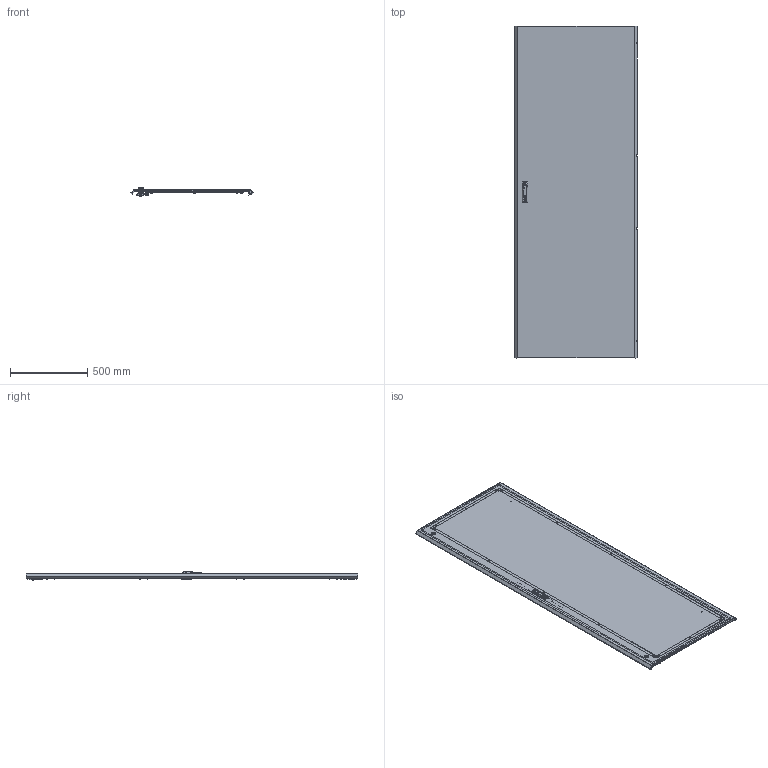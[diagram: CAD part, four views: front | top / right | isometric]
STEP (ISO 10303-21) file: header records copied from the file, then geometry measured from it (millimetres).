
FILE_DESCRIPTION (( 'STEP AP203' ), '1' );
FILE_NAME ('MA1.200.080622.30.00 AleSta-D22M800 Äâåðü ñïëîøíàÿ äëÿ øêàôîâ ALESTA ÂõØ 2200õ800.STEP', '2025-02-19T14:15:23', ( '' ), ( '' ), 'SwSTEP 2.0', 'SolidWorks 2021', '' );
FILE_SCHEMA (( 'CONFIG_CONTROL_DESIGN' ));
Length unit declared in the file: millimetre
Products named in the file (23): Ãàéêà ñàìîêîíòðÿùàÿñÿ ñ íåéëîíîâîé âñòàâêîé Ì6 DIN 985, êëàññ ïðî÷íîñòè 8, îöèíêîâàííàÿ ñòàëü_Œ5; MA1.200.060620.31.02 Ðåéêà íà äâåðü âåðòèêàëüíàÿ Â = 2000_‚ = 2200; Øïèëüêà Ì6õ12_˜¯¨«ìª  Œ6å20; äåðæàòåëü_êðóãëîé_òÿãèRG002-RG1010-2-i-RG1010-3-.stp; Øïèëüêà Ì6õ12_˜¯¨«ìª  Œ6å16; 諘蜱齁罻 022 瀁錒瀔隮; MA1.200.060620.31.01 Ïîëîòíî äâåðè ñïëîøíîé 2000õ600_2200å800; MA1.200.060620.31.00 Äâåðü ñïëîøíàÿ äëÿ øêàôîâ ALESTA ÂõØ 2000õ600_2200å800; Óïëîòíèòåëü ïàíåëè íèæíåé_ ‚=2200; Íàâåñêà íà êîðïóñ ïîä êëåïêó; Âèíò ñàìîíàðåçàþùèé ñ ïîòàéíîé ãîëîâêîé Ì5x16 DIN 7500 M TORX, êëàññ ïðî÷íîñòè 8.8, îöèíêîâàííàÿ ñòàëü_Œ5å16; Îñü ïåòëè 4õ52_‚¨­â A.M4x0,5x40 ƒŽ‘’ 11644-75; êðåïëåíèå_êðóãëîé_òÿãè_RG1020-1.stp; òÿãà_lg001-2.STEP_‚=2200; MA1.200.060620.31.04 需沐朦_惃％; MA1.200.080622.30.00 AleSta-D22M800 Äâåðü ñïëîøíàÿ äëÿ øêàôîâ ALESTA ÂõØ 2200õ800; MA1.200.060620.31.06 赶鎀鍧_100 洵; MA1.200.060620.31.05 Óãëîâîé óïîð äâåðíîé òÿãè; MA1.200.060620.31.03 Ðåéêà íà äâåðü ãîðèçîíòàëüíàÿ Ø = 600_˜=800; Ãàéêà ñàìîêîíòðÿùàÿñÿ ñ íåéëîíîâîé âñòàâêîé Ì6 DIN 985, êëàññ ïðî÷íîñòè 8, îöèíêîâàííàÿ ñòàëü_Œ6; MS463-2-3(1); Âèíò_ðåçüáîâûäàâëèâàþùèé_Ì5õ12_DIN 7500E_Œ5å12; Áîëò øåñòèãðàííûé Ì5õ12 DIN 933, êëàññ ïðî÷íîñòè 8.8, îöèíêîâàííàÿ ñòàëü
Assembly tree (84 placements, depth 3):
  MA1.200.080622.30.00 AleSta-D22M800 Äâåðü ñïëîøíàÿ äëÿ øêàôîâ ALESTA ÂõØ 2200õ800
    MA1.200.060620.31.00 Äâåðü ñïëîøíàÿ äëÿ øêàôîâ ALESTA ÂõØ 2000õ600_2200å800
      MA1.200.060620.31.01 Ïîëîòíî äâåðè ñïëîøíîé 2000õ600_2200å800
      Óïëîòíèòåëü ïàíåëè íèæíåé_ ‚=2200
      Øïèëüêà Ì6õ12_˜¯¨«ìª  Œ6å20  x16
      Øïèëüêà Ì6õ12_˜¯¨«ìª  Œ6å16  x4
    MA1.200.060620.31.03 Ðåéêà íà äâåðü ãîðèçîíòàëüíàÿ Ø = 600_˜=800  x2
    諘蜱齁罻 022 瀁錒瀔隮  x4
    MA1.200.060620.31.02 Ðåéêà íà äâåðü âåðòèêàëüíàÿ Â = 2000_‚ = 2200  x2
    äåðæàòåëü_êðóãëîé_òÿãèRG002-RG1010-2-i-RG1010-3-.stp  x2
    òÿãà_lg001-2.STEP_‚=2200  x2
    êðåïëåíèå_êðóãëîé_òÿãè_RG1020-1.stp  x2
    MS463-2-3(1)
    Ãàéêà ñàìîêîíòðÿùàÿñÿ ñ íåéëîíîâîé âñòàâêîé Ì6 DIN 985, êëàññ ïðî÷íîñòè 8, îöèíêîâàííàÿ ñòàëü_Œ6  x16
    Ãàéêà ñàìîêîíòðÿùàÿñÿ ñ íåéëîíîâîé âñòàâêîé Ì6 DIN 985, êëàññ ïðî÷íîñòè 8, îöèíêîâàííàÿ ñòàëü_Œ5  x2
    Áîëò øåñòèãðàííûé Ì5õ12 DIN 933, êëàññ ïðî÷íîñòè 8.8, îöèíêîâàííàÿ ñòàëü  x2
    MA1.200.060620.31.05 Óãëîâîé óïîð äâåðíîé òÿãè  x2
    Âèíò_ðåçüáîâûäàâëèâàþùèé_Ì5õ12_DIN 7500E_Œ5å12  x6
    Íàâåñêà íà êîðïóñ ïîä êëåïêó  x4
    Îñü ïåòëè 4õ52_‚¨­â A.M4x0,5x40 ƒŽ‘’ 11644-75  x4
    Âèíò ñàìîíàðåçàþùèé ñ ïîòàéíîé ãîëîâêîé Ì5x16 DIN 7500 M TORX, êëàññ ïðî÷íîñòè 8.8, îöèíêîâàííàÿ ñòàëü_Œ5å16  x8
    MA1.200.060620.31.04 需沐朦_惃％
    MA1.200.060620.31.06 赶鎀鍧_100 洵
Bounding box: 791.81 x 2145 x 54.72 mm (x, y, z)
Volume: 3639616.6 mm3; surface area: 4501203 mm2
Topology: 118 solids, 132 shells, 6165 faces, 15336 edges, 9356 vertices
Faces by surface type: cylinder 2503, plane 2445, bspline 661, cone 261, torus 197, sphere 98
Entity records: 140770 total; most frequent: CARTESIAN_POINT 59020, ORIENTED_EDGE 16506, DIRECTION 15561, EDGE_CURVE 8270, AXIS2_PLACEMENT_3D 5579, VERTEX_POINT 5172, VECTOR 4403, LINE 4403
